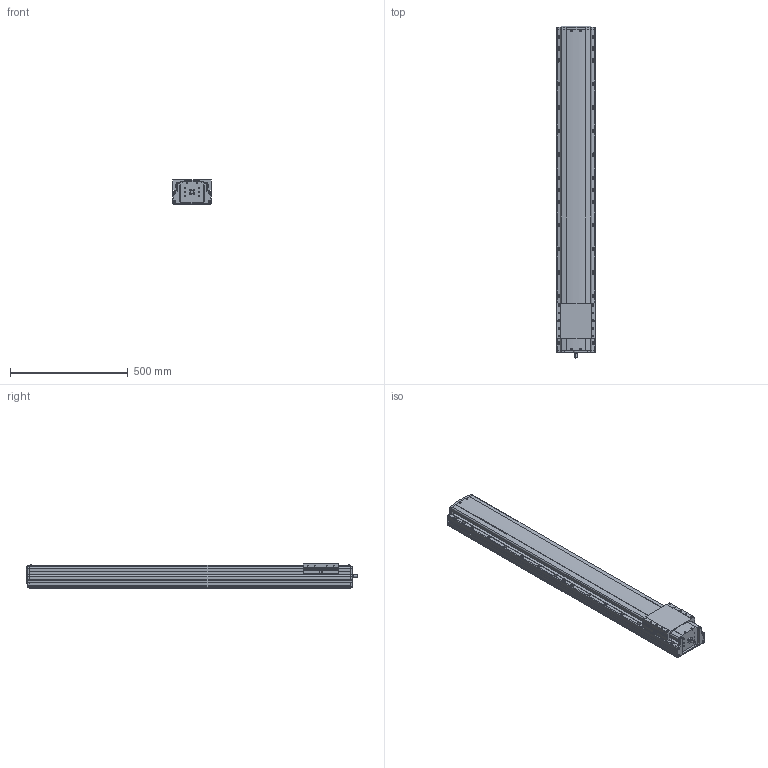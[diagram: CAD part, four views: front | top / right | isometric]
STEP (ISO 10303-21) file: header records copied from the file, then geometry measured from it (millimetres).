
FILE_DESCRIPTION(('STEP AP214'),'1');
FILE_NAME('Z:/Web/3D/PSA165/STP/PSA165-1100 (3D)/PSA165ㅁㅁ-1100.stp','2014-06-24T10:22:24',(' '),(' '),'Spatial InterOp 3D',' ',' ');
FILE_SCHEMA(('automotive_design'));
Length unit declared in the file: millimetre
Products named in the file (18): 스크루 : Round - M4.0 x 12.0; RRCV-PA160; BASE; 스크루 : Round - M4.0 x 10.0; RN15; Screw 20; SLIDE; FRCV
Bounding box: 165 x 1408.8 x 104 mm (x, y, z)
Volume: 18903273.8 mm3; surface area: 1129989.1 mm2
Topology: 18 solids, 18 shells, 2027 faces, 5517 edges, 3513 vertices
Faces by surface type: plane 1064, cylinder 697, cone 193, sphere 32, bspline 25, torus 16
Entity records: 83336 total; most frequent: CARTESIAN_POINT 15365, DIRECTION 10785, ORIENTED_EDGE 10734, EDGE_CURVE 5367, AXIS2_PLACEMENT_3D 3627, LINE 3531, VECTOR 3531, VERTEX_POINT 3513
